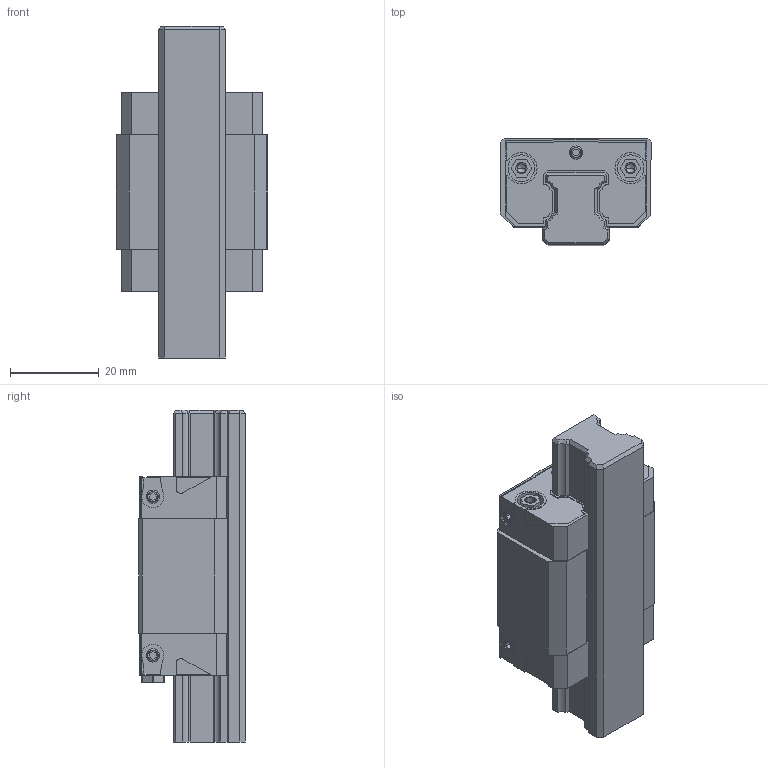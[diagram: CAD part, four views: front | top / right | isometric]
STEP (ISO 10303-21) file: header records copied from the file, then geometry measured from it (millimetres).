
FILE_DESCRIPTION((''),'2;1');
FILE_NAME('KWD_015_SKS_CS__ASM','2021-10-14T07:11:33',('ac91sw'),(''),'CREO PARAMETRIC BY PTC INC, 2020044','CREO PARAMETRIC BY PTC INC, 2020044','');
FILE_SCHEMA(('AUTOMOTIVE_DESIGN { 1 0 10303 214 1 1 1 1 }'));
Length unit declared in the file: millimetre
Products named in the file (7): KWD_015_SKS_CS__SKEL; R201010131; R200110102_Z; R343708901_Z; KWD_015_SKS_CS__PSF; R341702909_Z; KWD_015_SKS_CS__ASM
Assembly tree (11 placements, depth 2):
  KWD_015_SKS_CS__ASM
    KWD_015_SKS_CS__SKEL
    R201010131
    R200110102_Z  x2
    R343708901_Z  x5
    KWD_015_SKS_CS__PSF
    R341702909_Z
Bounding box: 34 x 24 x 74.7 mm (x, y, z)
Volume: 33685.5 mm3; surface area: 16760.2 mm2
Topology: 10 solids, 22 shells, 483 faces, 1250 edges, 799 vertices
Faces by surface type: plane 289, cylinder 138, cone 56
Entity records: 15689 total; most frequent: CARTESIAN_POINT 1797, DIRECTION 1520, ORIENTED_EDGE 1440, PROPERTY_DEFINITION 824, REPRESENTATION 815, PROPERTY_DEFINITION_REPRESENTATION 815, DESCRIPTIVE_REPRESENTATION_ITEM 758, GENERAL_PROPERTY 753
